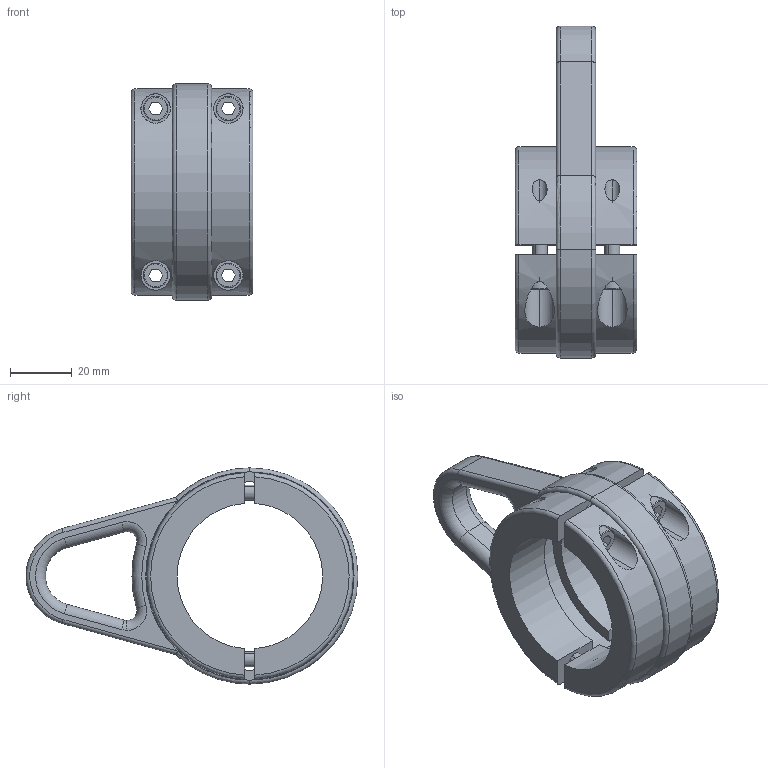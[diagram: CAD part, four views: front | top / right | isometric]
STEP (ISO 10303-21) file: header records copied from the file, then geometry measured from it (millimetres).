
FILE_DESCRIPTION (( 'STEP AP214' ), '1' );
FILE_NAME ('23575.STEP', '2017-09-20T16:37:34', ( 'AIMCO' ), ( '' ), 'SwSTEP 2.0', 'SolidWorks 2017', '' );
FILE_SCHEMA (( 'AUTOMOTIVE_DESIGN' ));
Length unit declared in the file: inch
Products named in the file (1): 23575
Bounding box: 39.37 x 107.25 x 69.85 mm (x, y, z)
Surface area: 32571 mm2 (no closed solid volume)
Topology: 0 solids, 14 shells, 161 faces, 439 edges, 292 vertices
Faces by surface type: cylinder 75, plane 52, torus 34
Entity records: 7918 total; most frequent: CARTESIAN_POINT 1685, DIRECTION 903, ORIENTED_EDGE 766, EDGE_CURVE 439, AXIS2_PLACEMENT_3D 346, VERTEX_POINT 292, LINE 211, VECTOR 211
